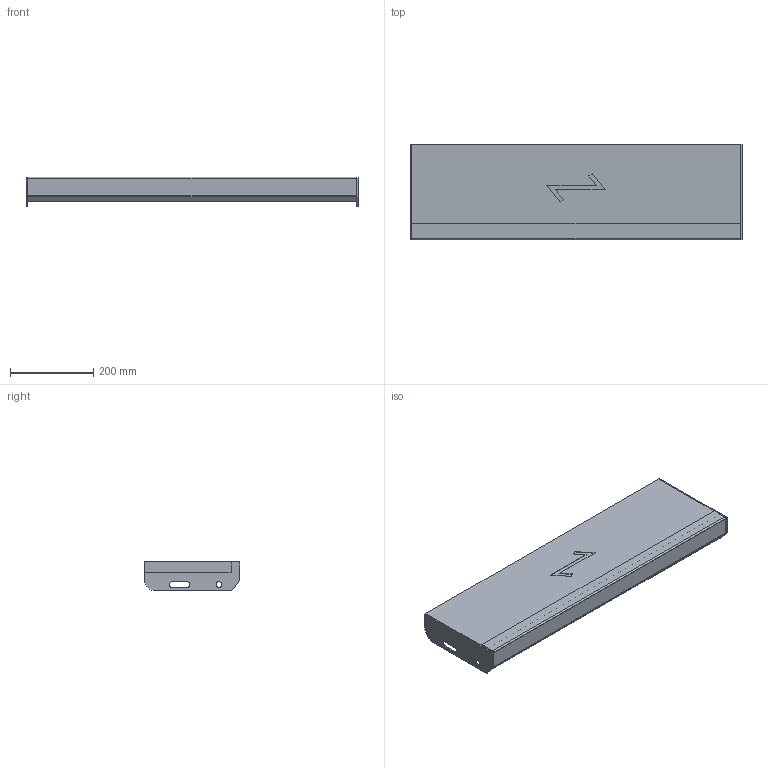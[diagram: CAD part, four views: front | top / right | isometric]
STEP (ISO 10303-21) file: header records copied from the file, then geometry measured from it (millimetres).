
FILE_DESCRIPTION (( 'STEP AP203' ), '1' );
FILE_NAME ('StegTH6-S-nya_steget-800x230 .STEP', '2020-03-04T07:43:02', ( '' ), ( '' ), 'SwSTEP 2.0', 'SolidWorks 2019', '' );
FILE_SCHEMA (( 'CONFIG_CONTROL_DESIGN' ));
Length unit declared in the file: millimetre
Products named in the file (5): SW0000039493; SW0000039244; StegTH6-S-nya_steget-800x230 ; SW0000038701; SW0000038934
Assembly tree (5 placements, depth 3):
  StegTH6-S-nya_steget-800x230 
    SW0000039493
      SW0000038934
      SW0000039244
      SW0000038701  x2
Bounding box: 800 x 230 x 72 mm (x, y, z)
Volume: 4391452 mm3; surface area: 605460.4 mm2
Topology: 4 solids, 4 shells, 67 faces, 158 edges, 100 vertices
Faces by surface type: plane 51, cylinder 16
Entity records: 2002 total; most frequent: DIRECTION 261, CARTESIAN_POINT 254, ORIENTED_EDGE 238, EDGE_CURVE 119, VECTOR 99, LINE 99, AXIS2_PLACEMENT_3D 81, VERTEX_POINT 74
